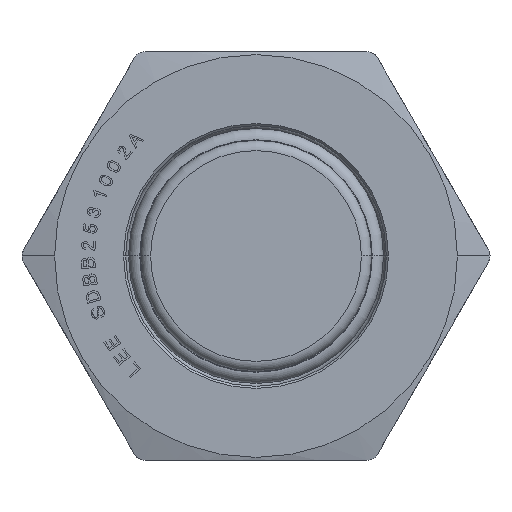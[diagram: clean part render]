
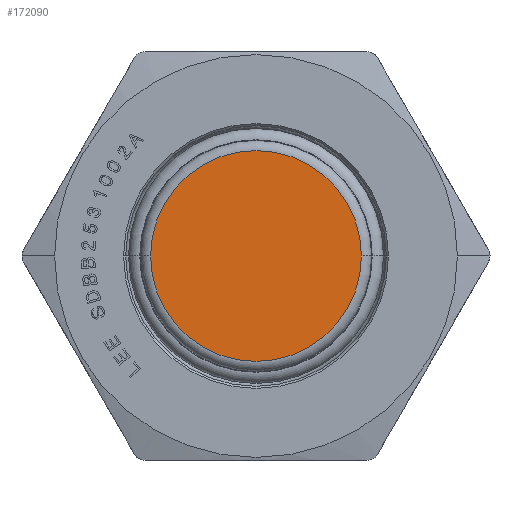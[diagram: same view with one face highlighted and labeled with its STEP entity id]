
A CAD part, left-side view. The second image highlights one B-rep face of the part: STEP entity #172090.
In plain terms, the highlighted planar face has unit normal (-1, 0, 0).
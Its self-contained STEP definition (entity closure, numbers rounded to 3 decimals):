
#171750=CARTESIAN_POINT('',(-19.788,0.665,0.));
#171760=VERTEX_POINT('',#171750);
#171790=CARTESIAN_POINT('',(-19.788,7.218,0.));
#171800=DIRECTION('',(-1.,0.,0.));
#171810=DIRECTION('',(0.,1.,0.));
#171820=AXIS2_PLACEMENT_3D('',#171790,#171800,#171810);
#171830=CIRCLE('',#171820,6.553);
#171840=CARTESIAN_POINT('',(-19.788,13.771,0.));
#171850=VERTEX_POINT('',#171840);
#171860=EDGE_CURVE('',#171760,#171850,#171830,.T.);
#171990=CARTESIAN_POINT('',(-19.788,10.494,0.));
#172000=DIRECTION('',(1.,0.,0.));
#172010=DIRECTION('',(0.,-1.,0.));
#172020=AXIS2_PLACEMENT_3D('',#171990,#172000,#172010);
#172030=PLANE('',#172020);
#172040=ORIENTED_EDGE('',*,*,#171860,.T.);
#172050=EDGE_CURVE('',#171850,#171760,#171830,.T.);
#172060=ORIENTED_EDGE('',*,*,#172050,.T.);
#172070=EDGE_LOOP('',(#172060,#172040));
#172080=FACE_OUTER_BOUND('',#172070,.T.);
#172090=ADVANCED_FACE('',(#172080),#172030,.F.);
